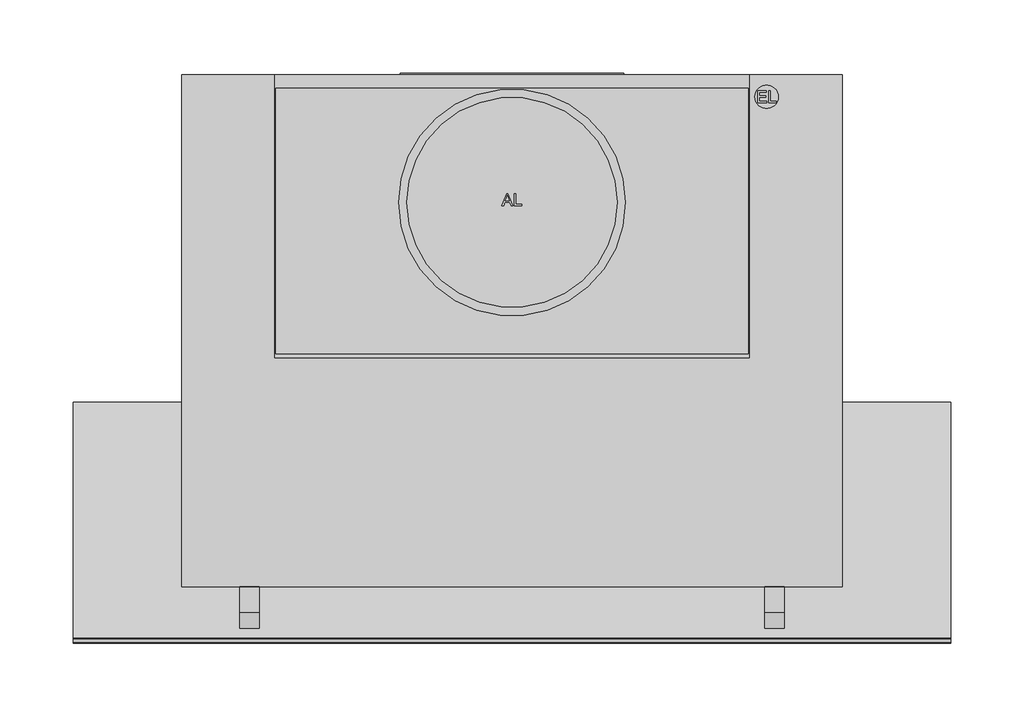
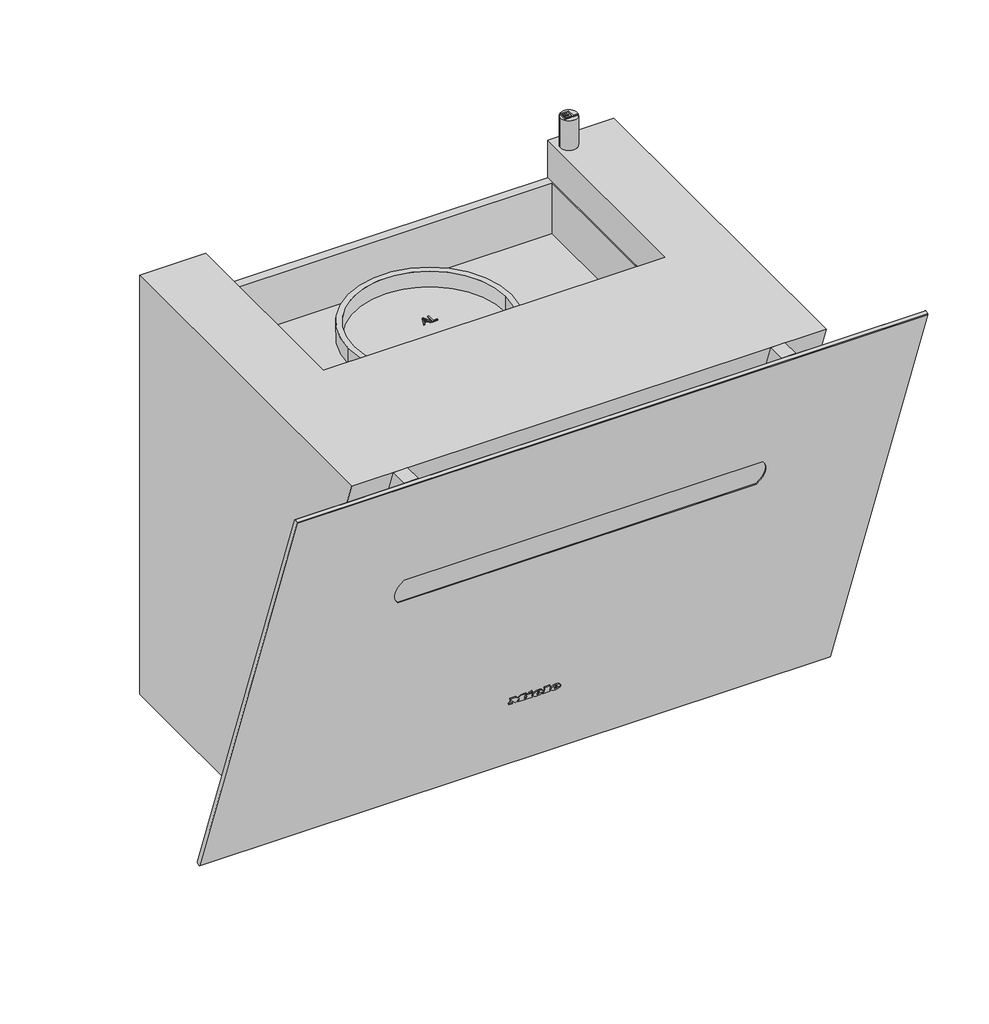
# Not in any storey: 1 proxy.
"""IFC4 building model written with IfcOpenShell, lengths in millimetres."""

from ifc_helpers import new_model, si_unit, origin, place, context, project, spatial, transform, mapped, element, save
from components import specialty_equipment_b5b5ebc4

model = new_model("IFC4")

# Units and contexts
model_context = context("Model", 3, world=origin())
ifc_project = project(units=[si_unit("LENGTHUNIT", "METRE", prefix="MILLI")], contexts=[model_context])

# Site, building
site = spatial("IfcSite", under=ifc_project)
building = spatial("IfcBuilding", under=site)

# Proxy
placement = place(None, origin())
specialty_equipment_shape = specialty_equipment_b5b5ebc4(model_context)
element("IfcBuildingElementProxy", 1, Name="12559240_NER_DAH1650_BRWS : 28H1650W_NER_12559240_DAH1650_BRWS", ObjectType="12559240_NER_DAH1650_BRWS : 28H1650W_NER_12559240_DAH1650_BRWS", at=placement, inside=building, context=model_context, shape_type="MappedRepresentation", body=[
    mapped(specialty_equipment_shape, transform((0.0, 0.0, 0.0), x_axis=(1.0, 0.0, 0.0), y_axis=(0.0, 1.0, 0.0), z_axis=(0.0, 0.0, 1.0))),
])

save(model, "model.ifc")
